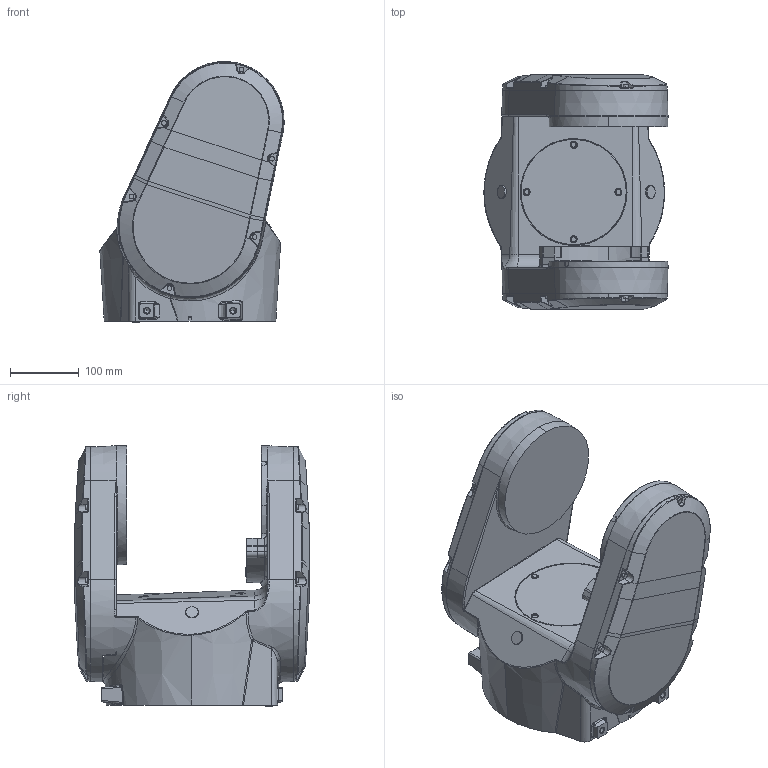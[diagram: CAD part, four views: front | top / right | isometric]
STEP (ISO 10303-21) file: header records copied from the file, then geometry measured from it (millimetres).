
FILE_DESCRIPTION (( 'STEP AP214' ), '1' );
FILE_NAME ('IRB1300 Type A_11Kg-900-Foundry-STD_OC_00_link1.STEP', '2026-05-19T13:06:06', ( '' ), ( '' ), 'SwSTEP 2.0', 'SolidWorks 2024', '' );
FILE_SCHEMA (( 'AUTOMOTIVE_DESIGN' ));
Length unit declared in the file: millimetre
Products named in the file (1): IRB1300 Type A_11Kg-900-Foundry-STD_OC_00_link1
Bounding box: 267.2 x 340 x 378.5 mm (x, y, z)
Volume: 15157282.4 mm3; surface area: 520587.9 mm2
Topology: 1 solids, 3 shells, 872 faces, 2094 edges, 1234 vertices
Faces by surface type: bspline 308, cylinder 217, plane 176, cone 99, torus 68, sphere 4
Entity records: 48354 total; most frequent: CARTESIAN_POINT 30785, ORIENTED_EDGE 4120, DIRECTION 3040, EDGE_CURVE 2060, VERTEX_POINT 1232, AXIS2_PLACEMENT_3D 1216, EDGE_LOOP 910, FACE_OUTER_BOUND 872
